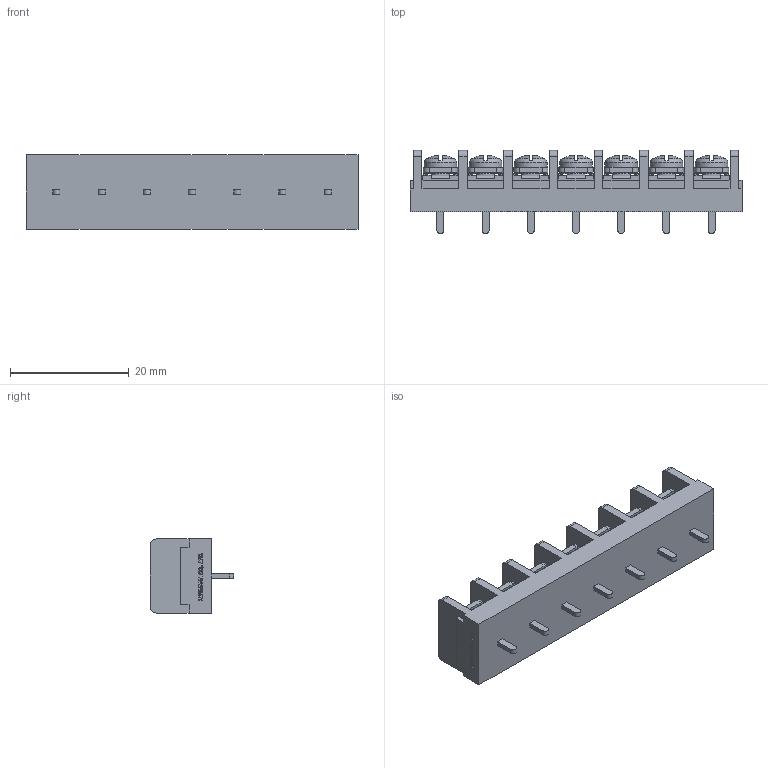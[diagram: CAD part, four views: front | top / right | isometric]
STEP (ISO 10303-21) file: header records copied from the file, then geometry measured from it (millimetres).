
FILE_DESCRIPTION(/* description */ ('Alibre Inc.'),/* implementation_level */ '2;1');
FILE_NAME(/* name */ 'export0',/* time_stamp */ '2015-10-26T16:48:10+09:00',/* author */ (''),/* organization */ (''),/* preprocessor_version */ 'ST-DEVELOPER v14',/* originating_system */ 'Alibre',/* authorisation */ '');
FILE_SCHEMA (('CONFIG_CONTROL_DESIGN'));
Length unit declared in the file: centimetre
Products named in the file (1): ID_1
Bounding box: 55.96 x 14 x 12.5 mm (x, y, z)
Volume: 5063.3 mm3; surface area: 4626.3 mm2
Topology: 1 solids, 1 shells, 1058 faces, 2894 edges, 1906 vertices
Faces by surface type: plane 819, bspline 104, cylinder 79, cone 28, torus 14, sphere 14
Full cylindrical faces by diameter (mm): 3 x7, 5.5 x7
Entity records: 31813 total; most frequent: CARTESIAN_POINT 7011, ORIENTED_EDGE 5704, DIRECTION 3850, EDGE_CURVE 2852, VECTOR 2066, LINE 2066, VERTEX_POINT 1892, AXIS2_PLACEMENT_3D 1273
